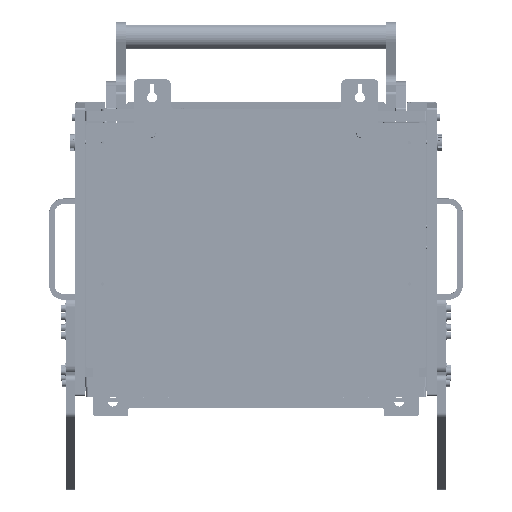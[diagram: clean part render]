
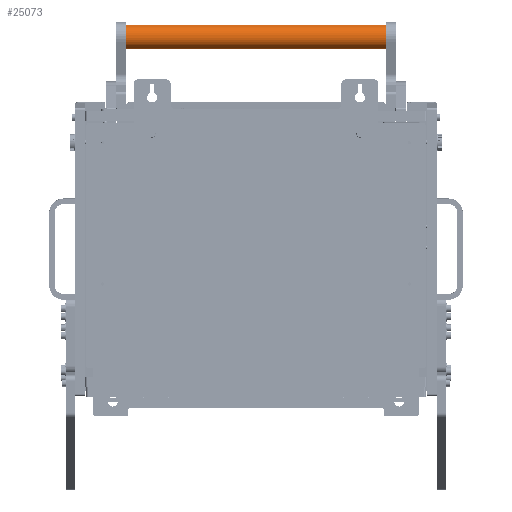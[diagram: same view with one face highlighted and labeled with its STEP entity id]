
A CAD part, front view. The second image highlights one B-rep face of the part: STEP entity #25073.
In plain terms, the highlighted cylindrical face has radius 12.5 mm (diameter 25 mm), a partial arc.
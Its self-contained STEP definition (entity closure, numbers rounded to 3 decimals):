
#11843 = VECTOR ( 'NONE', #184423, 1000. ) ;
#12325 = ORIENTED_EDGE ( 'NONE', *, *, #103501, .T. ) ;
#18268 = AXIS2_PLACEMENT_3D ( 'NONE', #104135, #104842, #137177 ) ;
#19847 = DIRECTION ( 'NONE',  ( 0., 0., 1. ) ) ;
#24565 = FACE_OUTER_BOUND ( 'NONE', #112174, .T. ) ;
#24676 = LINE ( 'NONE', #92529, #155771 ) ;
#25073 = ADVANCED_FACE ( 'NONE', ( #24565 ), #57313, .T. ) ;
#29565 = CIRCLE ( 'NONE', #205853, 12.5 ) ;
#47590 = CARTESIAN_POINT ( 'NONE',  ( 0., 0., 135. ) ) ;
#57313 = CYLINDRICAL_SURFACE ( 'NONE', #18268, 12.5 ) ;
#70486 = CARTESIAN_POINT ( 'NONE',  ( 0., 0., -135. ) ) ;
#86348 = EDGE_CURVE ( 'NONE', #120070, #193504, #24676, .T. ) ;
#86908 = EDGE_CURVE ( 'NONE', #89709, #99944, #182951, .T. ) ;
#89709 = VERTEX_POINT ( 'NONE', #123220 ) ;
#92529 = CARTESIAN_POINT ( 'NONE',  ( -12.5, 0., -135. ) ) ;
#96860 = DIRECTION ( 'NONE',  ( 0., 0., 1. ) ) ;
#99944 = VERTEX_POINT ( 'NONE', #163757 ) ;
#103501 = EDGE_CURVE ( 'NONE', #89709, #120070, #29565, .T. ) ;
#104135 = CARTESIAN_POINT ( 'NONE',  ( 0., 0., -135. ) ) ;
#104842 = DIRECTION ( 'NONE',  ( 0., 0., 1. ) ) ;
#108346 = AXIS2_PLACEMENT_3D ( 'NONE', #47590, #96860, #176255 ) ;
#109231 = CARTESIAN_POINT ( 'NONE',  ( 12.5, 0., -135. ) ) ;
#112174 = EDGE_LOOP ( 'NONE', ( #12325, #158928, #119140, #157469 ) ) ;
#119140 = ORIENTED_EDGE ( 'NONE', *, *, #178166, .F. ) ;
#120070 = VERTEX_POINT ( 'NONE', #181784 ) ;
#123220 = CARTESIAN_POINT ( 'NONE',  ( 12.5, 0., -135. ) ) ;
#137177 = DIRECTION ( 'NONE',  ( 1., 0., 0. ) ) ;
#155771 = VECTOR ( 'NONE', #187450, 1000. ) ;
#157469 = ORIENTED_EDGE ( 'NONE', *, *, #86908, .F. ) ;
#158928 = ORIENTED_EDGE ( 'NONE', *, *, #86348, .T. ) ;
#163757 = CARTESIAN_POINT ( 'NONE',  ( 12.5, 0., 135. ) ) ;
#171383 = CIRCLE ( 'NONE', #108346, 12.5 ) ;
#176255 = DIRECTION ( 'NONE',  ( 1., 0., 0. ) ) ;
#178166 = EDGE_CURVE ( 'NONE', #99944, #193504, #171383, .T. ) ;
#181784 = CARTESIAN_POINT ( 'NONE',  ( -12.5, 0., -135. ) ) ;
#182951 = LINE ( 'NONE', #109231, #11843 ) ;
#184423 = DIRECTION ( 'NONE',  ( 0., 0., 1. ) ) ;
#187429 = CARTESIAN_POINT ( 'NONE',  ( -12.5, 0., 135. ) ) ;
#187450 = DIRECTION ( 'NONE',  ( 0., 0., 1. ) ) ;
#193504 = VERTEX_POINT ( 'NONE', #187429 ) ;
#198556 = DIRECTION ( 'NONE',  ( 1., 0., 0. ) ) ;
#205853 = AXIS2_PLACEMENT_3D ( 'NONE', #70486, #19847, #198556 ) ;
